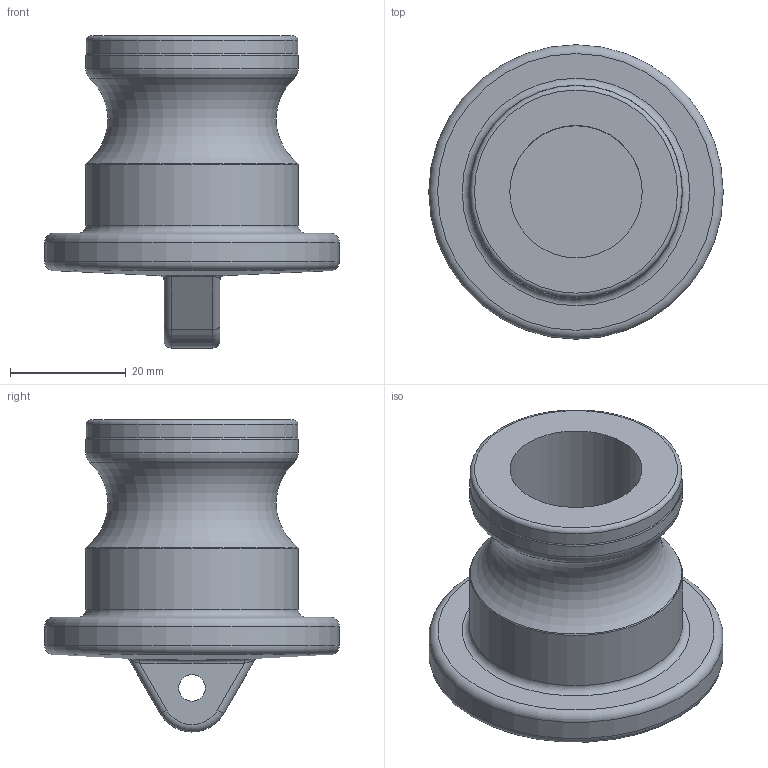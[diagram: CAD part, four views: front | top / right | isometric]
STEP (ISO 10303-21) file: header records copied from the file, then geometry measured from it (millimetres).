
FILE_DESCRIPTION(/* description */ ('Alibre Inc.'),/* implementation_level */ '2;1');
FILE_NAME(/* name */ 'export0',/* time_stamp */ '2016-03-15T17:50:51-04:00',/* author */ (''),/* organization */ (''),/* preprocessor_version */ 'ST-DEVELOPER v14',/* originating_system */ 'Alibre',/* authorisation */ '');
FILE_SCHEMA (('CONFIG_CONTROL_DESIGN'));
Length unit declared in the file: centimetre
Products named in the file (1): ID_1
Bounding box: 50.8 x 50.8 x 53.85 mm (x, y, z)
Volume: 33233.9 mm3; surface area: 11622.1 mm2
Topology: 1 solids, 1 shells, 37 faces, 78 edges, 45 vertices
Faces by surface type: torus 12, cylinder 11, plane 7, bspline 4, cone 2, sphere 1
Full cylindrical faces by diameter (mm): 4.572 x1, 22.86 x1, 36.576 x1, 36.728 x2, 50.8 x1
Entity records: 1314 total; most frequent: CARTESIAN_POINT 527, DIRECTION 141, ORIENTED_EDGE 120, AXIS2_PLACEMENT_3D 75, EDGE_CURVE 60, EDGE_LOOP 56, FACE_BOUND 56, VERTEX_POINT 42
